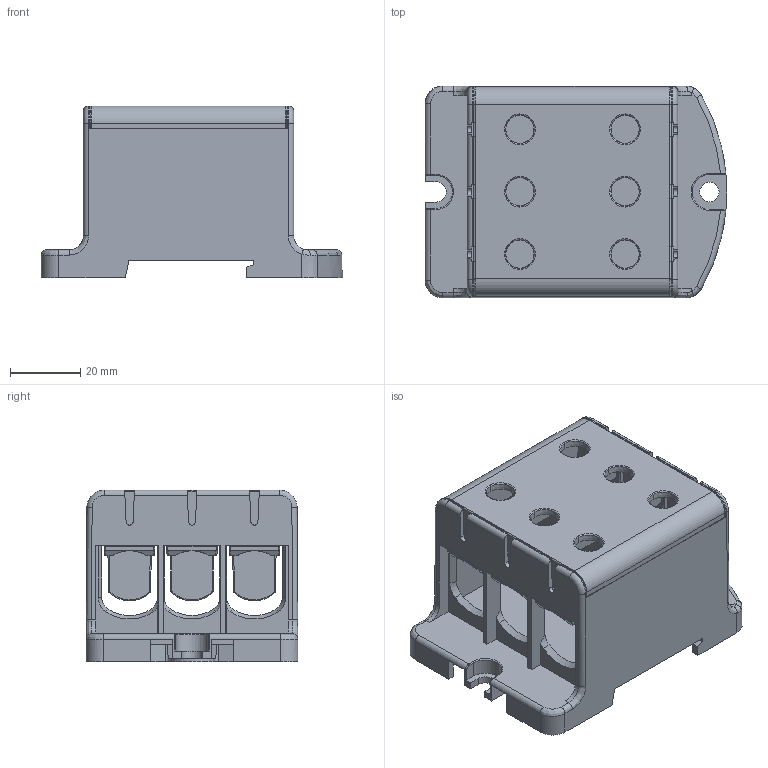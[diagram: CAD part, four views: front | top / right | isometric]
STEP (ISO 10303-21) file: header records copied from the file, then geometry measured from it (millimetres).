
FILE_DESCRIPTION((''),'2;1');
FILE_NAME('KE72_ASM','2016-05-30T',('Administrator'),(''),'PRO/ENGINEER BY PARAMETRIC TECHNOLOGY CORPORATION, 2009360','PRO/ENGINEER BY PARAMETRIC TECHNOLOGY CORPORATION, 2009360','');
FILE_SCHEMA(('CONFIG_CONTROL_DESIGN'));
Length unit declared in the file: millimetre
Products named in the file (3): 67-3-GAI; 67-3-ZUO; KE72_ASM
Assembly tree (2 placements, depth 2):
  KE72_ASM
    67-3-GAI
    67-3-ZUO
Bounding box: 86 x 60.45 x 49 mm (x, y, z)
Volume: 39017.2 mm3; surface area: 45155.7 mm2
Topology: 2 solids, 2 shells, 648 faces, 1713 edges, 1057 vertices
Faces by surface type: plane 312, cylinder 207, bspline 52, torus 36, cone 30, sphere 11
Entity records: 22506 total; most frequent: CARTESIAN_POINT 6815, ORIENTED_EDGE 3426, DIRECTION 3053, EDGE_CURVE 1713, VECTOR 1109, LINE 1109, VERTEX_POINT 1057, AXIS2_PLACEMENT_3D 972
